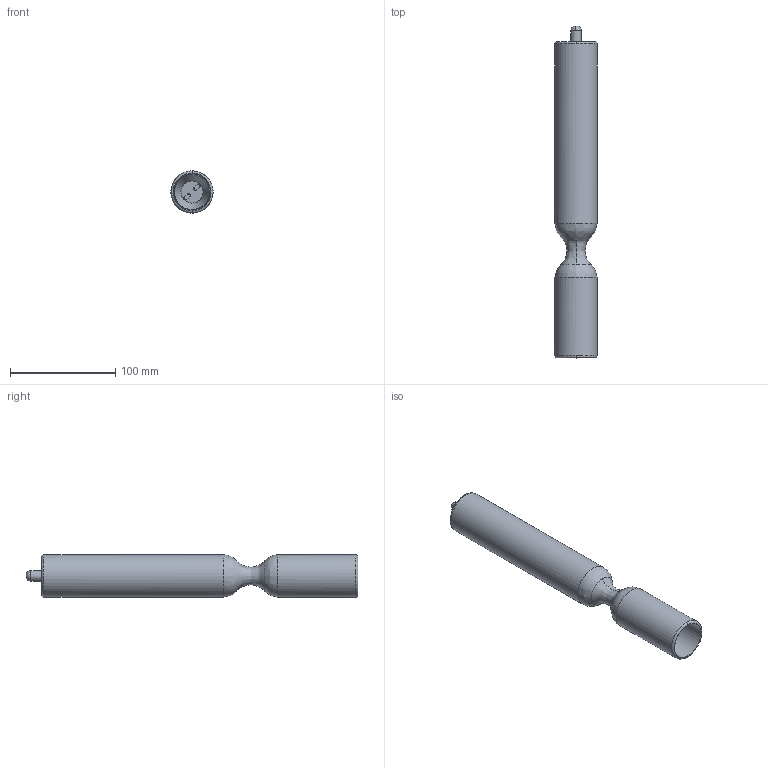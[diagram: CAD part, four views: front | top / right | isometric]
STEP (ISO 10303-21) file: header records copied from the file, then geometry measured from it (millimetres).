
FILE_DESCRIPTION(/* description */ (''),/* implementation_level */ '2;1');
FILE_NAME(/* name */ 'SEM.000264',/* time_stamp */ '2025-04-16T10:17:48+02:00',/* author */ (''),/* organization */ (''),/* preprocessor_version */ 'ST-DEVELOPER v16.5',/* originating_system */ 'Rhino 7.37',/* authorisation */ '');
FILE_SCHEMA (('CONFIG_CONTROL_DESIGN'));
Length unit declared in the file: millimetre
Products named in the file (1): Document
Bounding box: 40 x 314.76 x 40 mm (x, y, z)
Volume: 109645.6 mm3; surface area: 89033.5 mm2
Topology: 5 solids, 5 shells, 73 faces, 229 edges, 165 vertices
Faces by surface type: bspline 30, cylinder 23, plane 20
Full cylindrical faces by diameter (mm): 3.242 x1, 3.5 x1, 4.5 x1, 6 x1, 6.917 x1, 7 x3, 8 x2, 10 x2, 11 x1, 21 x1, 34 x1, 35.4 x2, 40 x2
Entity records: 4122 total; most frequent: CARTESIAN_POINT 2739, ORIENTED_EDGE 452, EDGE_CURVE 226, VERTEX_POINT 166, EDGE_LOOP 90, ADVANCED_FACE 73, FACE_OUTER_BOUND 73, B_SPLINE_CURVE_WITH_KNOTS 56
